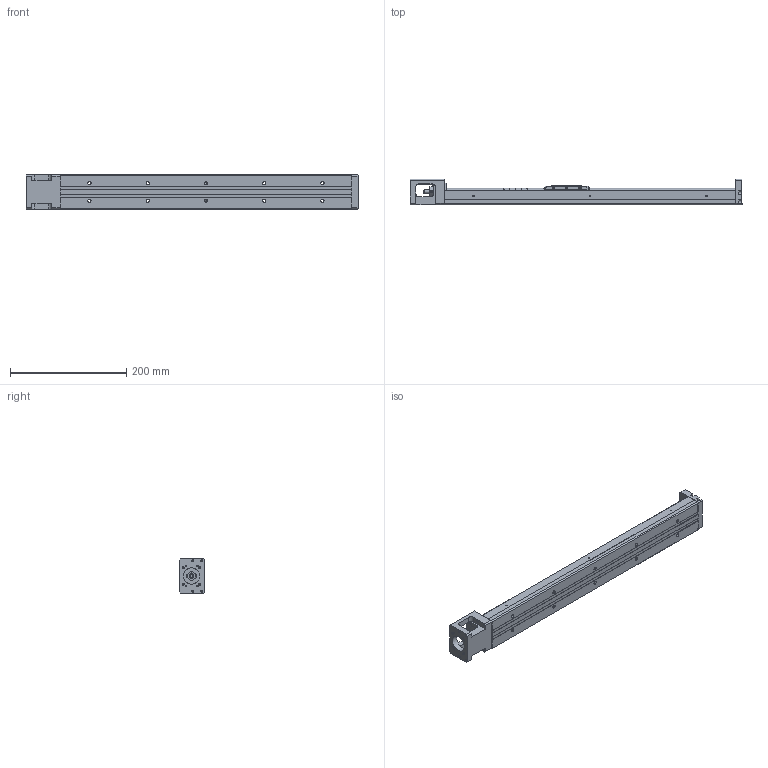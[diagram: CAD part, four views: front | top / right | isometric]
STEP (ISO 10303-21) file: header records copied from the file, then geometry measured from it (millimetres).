
FILE_DESCRIPTION(/* description */ (''),/* implementation_level */ '2;1');
FILE_NAME(/* name */ 'KP33N-500.stp',/* time_stamp */ '2020-06-04T15:31:21+08:00',/* author */ (''),/* organization */ (''),/* preprocessor_version */ 'ST-DEVELOPER v14',/* originating_system */ 'SIEMENS PLM Software NX 8.0',/* authorisation */ '');
FILE_SCHEMA (('AUTOMOTIVE_DESIGN { 1 0 10303 214 3 1 1 1 }'));
Length unit declared in the file: millimetre
Products named in the file (1): model1
Bounding box: 570 x 44.45 x 60 mm (x, y, z)
Volume: 612928.6 mm3; surface area: 171873.7 mm2
Topology: 5 solids, 14 shells, 665 faces, 1691 edges, 1115 vertices
Faces by surface type: plane 385, cylinder 193, bspline 31, cone 24, extrusion 21, torus 9, revolution 2
Full cylindrical faces by diameter (mm): 1.6 x3, 1.65 x4, 2.15 x3, 2.42 x4, 2.45 x4, 2.5 x12, 3 x3, 3.2 x4, 3.3 x4, 3.4 x3, 3.5 x10, 3.969 x1, 4 x6, 4.001 x1, 4.135 x4, 5.5 x10, 6 x5, 7.6 x1, 8 x5, 9.5 x10, 10.72 x3, 11.8 x2, 12 x6, 12.8 x1, 13 x2, 14 x1, 17.38 x3, 21.5 x1, 22 x2, 28 x1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
Entity records: 34273 total; most frequent: CARTESIAN_POINT 15666, DIRECTION 3010, ORIENTED_EDGE 2922, EDGE_CURVE 1461, AXIS2_PLACEMENT_3D 1074, VERTEX_POINT 1039, EDGE_LOOP 946, VECTOR 860
